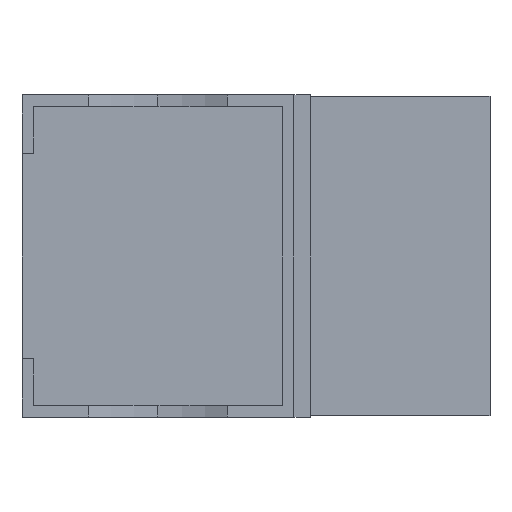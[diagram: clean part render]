
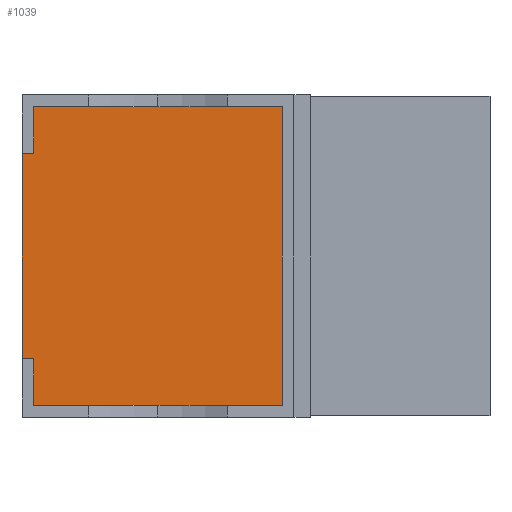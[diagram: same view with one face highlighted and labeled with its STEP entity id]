
A CAD part, left-side view. The second image highlights one B-rep face of the part: STEP entity #1039.
In plain terms, the highlighted planar face has unit normal (-1, 0, 0).
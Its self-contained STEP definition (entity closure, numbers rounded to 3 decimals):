
#11 = ORIENTED_EDGE ( 'NONE', *, *, #989, .F. ) ;
#19 = LINE ( 'NONE', #1598, #938 ) ;
#48 = EDGE_CURVE ( 'NONE', #618, #581, #19, .T. ) ;
#82 = DIRECTION ( 'NONE',  ( 0., 1., 0. ) ) ;
#100 = LINE ( 'NONE', #1870, #2059 ) ;
#188 = CARTESIAN_POINT ( 'NONE',  ( -1.15, 20.2, 22.1 ) ) ;
#299 = CARTESIAN_POINT ( 'NONE',  ( -1.15, 55.9, -22.1 ) ) ;
#314 = VERTEX_POINT ( 'NONE', #931 ) ;
#441 = VERTEX_POINT ( 'NONE', #299 ) ;
#444 = CARTESIAN_POINT ( 'NONE',  ( -1.15, 55.9, -59.418 ) ) ;
#581 = VERTEX_POINT ( 'NONE', #1032 ) ;
#611 = EDGE_LOOP ( 'NONE', ( #11, #1180, #1925, #1649 ) ) ;
#618 = VERTEX_POINT ( 'NONE', #188 ) ;
#861 = LINE ( 'NONE', #1702, #1715 ) ;
#894 = DIRECTION ( 'NONE',  ( 0., 0., -1. ) ) ;
#904 = DIRECTION ( 'NONE',  ( 1., 0., 0. ) ) ;
#931 = CARTESIAN_POINT ( 'NONE',  ( -1.15, 20.2, -22.1 ) ) ;
#938 = VECTOR ( 'NONE', #1300, 1000. ) ;
#989 = EDGE_CURVE ( 'NONE', #314, #441, #861, .T. ) ;
#1032 = CARTESIAN_POINT ( 'NONE',  ( -1.15, 55.9, 22.1 ) ) ;
#1039 = ADVANCED_FACE ( 'NONE', ( #1833 ), #1670, .F. ) ;
#1096 = LINE ( 'NONE', #444, #1885 ) ;
#1165 = EDGE_CURVE ( 'NONE', #441, #581, #1096, .T. ) ;
#1180 = ORIENTED_EDGE ( 'NONE', *, *, #2062, .T. ) ;
#1300 = DIRECTION ( 'NONE',  ( 0., 1., 0. ) ) ;
#1308 = AXIS2_PLACEMENT_3D ( 'NONE', #1511, #904, #894 ) ;
#1511 = CARTESIAN_POINT ( 'NONE',  ( -1.15, 18.6, -59.418 ) ) ;
#1590 = DIRECTION ( 'NONE',  ( 0., 0., 1. ) ) ;
#1598 = CARTESIAN_POINT ( 'NONE',  ( -1.15, 18.6, 22.1 ) ) ;
#1649 = ORIENTED_EDGE ( 'NONE', *, *, #1165, .F. ) ;
#1670 = PLANE ( 'NONE',  #1308 ) ;
#1702 = CARTESIAN_POINT ( 'NONE',  ( -1.15, 18.6, -22.1 ) ) ;
#1710 = DIRECTION ( 'NONE',  ( 0., 0., 1. ) ) ;
#1715 = VECTOR ( 'NONE', #82, 1000. ) ;
#1833 = FACE_OUTER_BOUND ( 'NONE', #611, .T. ) ;
#1870 = CARTESIAN_POINT ( 'NONE',  ( -1.15, 20.2, 22.1 ) ) ;
#1885 = VECTOR ( 'NONE', #1590, 1000. ) ;
#1925 = ORIENTED_EDGE ( 'NONE', *, *, #48, .T. ) ;
#2059 = VECTOR ( 'NONE', #1710, 1000. ) ;
#2062 = EDGE_CURVE ( 'NONE', #314, #618, #100, .T. ) ;
